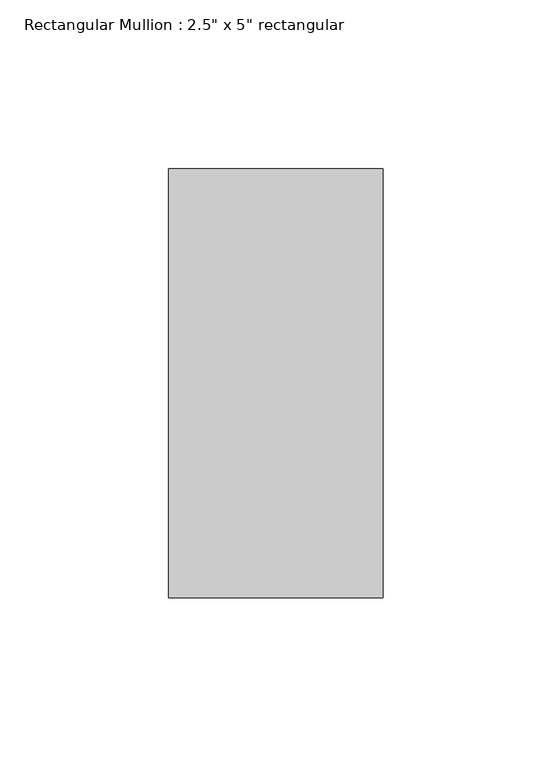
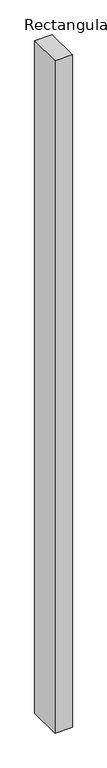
"""IFC4 building model written with IfcOpenShell, lengths in millimetres: member geometry."""

from ifc_helpers import new_model, si_unit, frame, origin, place, context, project, spatial, polyline, outline, extrude, source, transform, mapped, element, save


def member_72292d41(model_context):
    return source(origin(), model_context, "Body", "SweptSolid", [
        extrude(outline(polyline([(31.75, 63.5), (31.75, -63.5), (-31.75, -63.5), (-31.75, 63.5), (31.75, 63.5)])), frame((0.0, 0.0, -2582.2788317), z_axis=(0.0, 0.0, 1.0), x_axis=(1.0, 0.0, 0.0)), (0.0, 0.0, 1.0), 2582.2788317),
    ])


if __name__ == "__main__":
    model = new_model("IFC4")
    model_context = context("Model", 3, world=origin())
    ifc_project = project(units=[si_unit("LENGTHUNIT", "METRE", prefix="MILLI")], contexts=[model_context])
    site = spatial("IfcSite", under=ifc_project)
    building = spatial("IfcBuilding", under=site)
    placement = place(None, origin())
    member_shape = member_72292d41(model_context)
    element("IfcMember", 1, ObjectType="Rectangular Mullion : 2.5\" x 5\" rectangular", at=placement, inside=building, context=model_context, shape_type="MappedRepresentation", body=[
        mapped(member_shape, transform((0.0, 0.0, 0.0), x_axis=(1.0, 0.0, 0.0), y_axis=(0.0, 1.0, 0.0), z_axis=(0.0, 0.0, 1.0))),
    ])
    save(model, "model.ifc")
